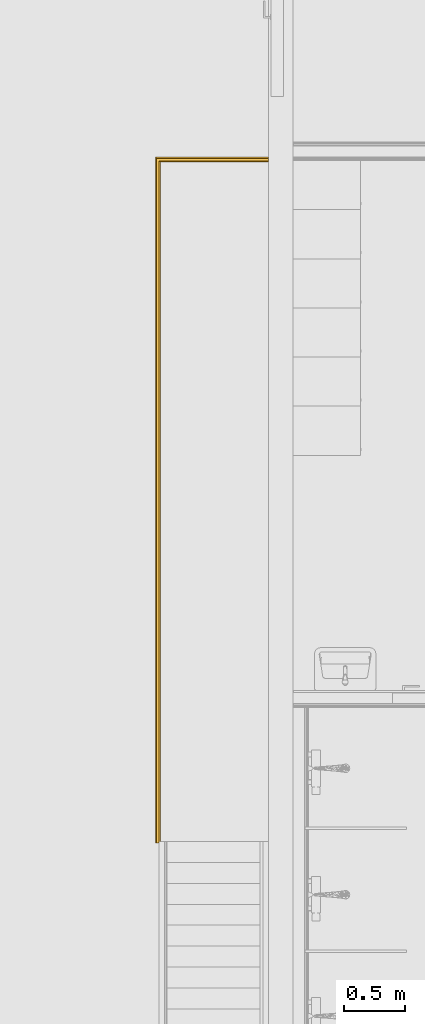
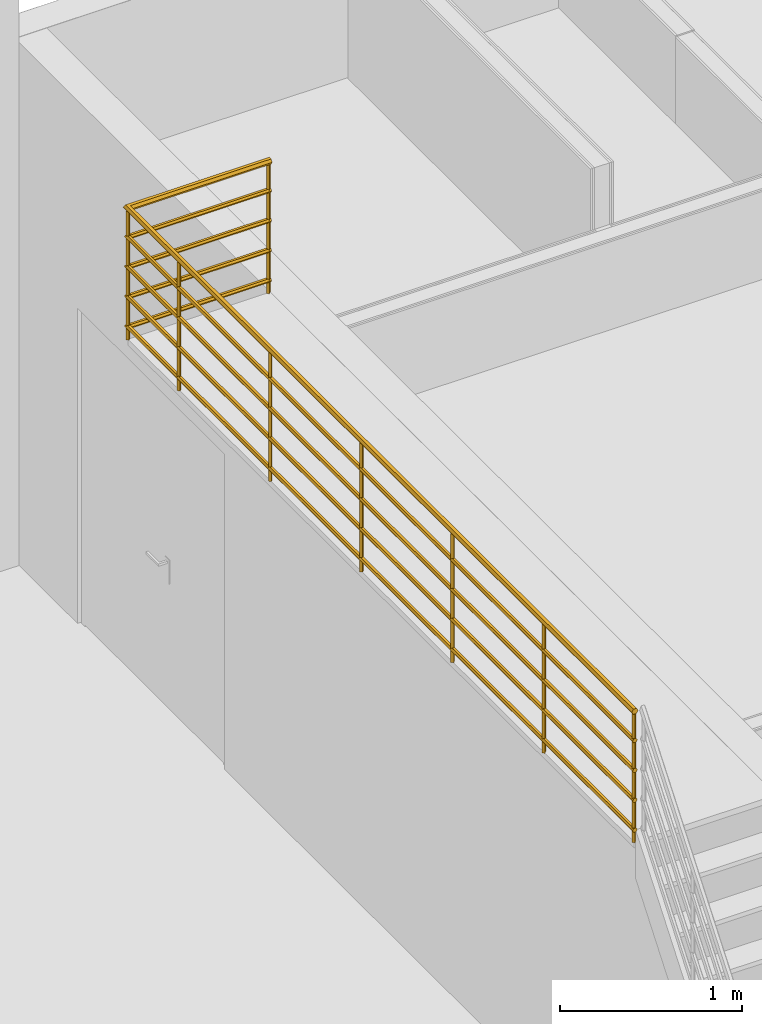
# One storey, part 27 of 67: 1 railing.
"""IFC4 building model written with IfcOpenShell, lengths in millimetres."""

from ifc_helpers import new_model, entity, si_unit, converted_unit, direction, frame, origin, place, context, subcontext, project, spatial, polygons, material, type_object, element, save


model = new_model("IFC4")

# Units and contexts
model_context = context("Model", 3, precision=0.01, world=origin(), true_north=direction((0.0, 1.0)))
body_context = subcontext(model_context, "Body", "Model", "MODEL_VIEW")
ifc_project = project(units=[si_unit("LENGTHUNIT", "METRE", prefix="MILLI"), si_unit("AREAUNIT", "SQUARE_METRE"), si_unit("VOLUMEUNIT", "CUBIC_METRE"), converted_unit("PLANEANGLEUNIT", "DEGREE", entity("IfcPlaneAngleMeasure", 0.017453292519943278), si_unit("PLANEANGLEUNIT", "RADIAN"), dimensions=[0, 0, 0, 0, 0, 0, 0])], contexts=[model_context])

# Site, building, storey
site_placement = place(None, origin())
site = spatial("IfcSite", under=ifc_project, at=site_placement, Name="Tomtens navn", CompositionType="ELEMENT")
building_placement = place(site_placement, origin())
building = spatial("IfcBuilding", under=site, at=building_placement, Name="Byggets navn", CompositionType="ELEMENT")
storey_placement = place(building_placement, origin())
storey = spatial("IfcBuildingStorey", under=building, at=storey_placement, Name="Level 01", CompositionType="ELEMENT", Elevation=2.1993652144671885e-25)

# Railing
ifc_material = material(Name="<Unnamed>")
railing_type = type_object("IfcRailingType", Name="Railing:Rekkverk 900mm rør - Top Rail", PredefinedType="NOTDEFINED")
railing_placement = place(storey_placement, frame((57500.52180408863, 14499.878956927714, 3500.0)))
element("IfcRailing", 1, at=railing_placement, inside=storey, type_object=railing_type, material=ifc_material, Name="Railing:Rekkverk 900mm rør - Top Rail", PredefinedType="NOTDEFINED", context=body_context, shape_type="Tessellation", body=[
    polygons([(9.095272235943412, 5001.5875000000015, 859.9999999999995), (21.595272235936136, 5014.0875000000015, 859.9999999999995), (34.095272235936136, 5001.5875000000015, 859.9999999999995), (34.095272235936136, 5001.5875000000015, 0.0), (21.595272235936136, 5014.0875000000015, 0.0), (9.095272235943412, 5001.5875000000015, 0.0), (21.595272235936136, 4989.0875000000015, 0.0), (21.595272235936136, 4989.0875000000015, 859.9999999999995)], [[[1, 2, 5, 6]], [[3, 4, 5, 2]], [[4, 3, 8, 7]], [[1, 6, 7, 8]], [[8, 3, 2, 1]], [[4, 7, 6, 5]]], closed=True),
    polygons([(9.095272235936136, 4001.5875000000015, 859.9999999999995), (21.59527223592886, 4014.0875000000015, 859.9999999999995), (34.09527223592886, 4001.5875000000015, 859.9999999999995), (34.09527223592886, 4001.5875000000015, 0.0), (21.59527223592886, 4014.0875000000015, 0.0), (9.095272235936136, 4001.5875000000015, 0.0), (21.59527223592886, 3989.0875000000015, 0.0), (21.59527223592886, 3989.0875000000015, 859.9999999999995)], [[[1, 2, 5, 6]], [[3, 4, 5, 2]], [[4, 3, 8, 7]], [[1, 6, 7, 8]], [[8, 3, 2, 1]], [[4, 7, 6, 5]]], closed=True),
    polygons([(9.095272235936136, 3001.5875000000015, 859.9999999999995), (21.59527223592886, 3014.0875000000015, 859.9999999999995), (34.09527223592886, 3001.5875000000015, 859.9999999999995), (34.09527223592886, 3001.5875000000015, 0.0), (21.59527223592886, 3014.0875000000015, 0.0), (9.095272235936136, 3001.5875000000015, 0.0), (21.59527223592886, 2989.0875000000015, 0.0), (21.59527223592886, 2989.0875000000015, 859.9999999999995)], [[[1, 2, 5, 6]], [[3, 4, 5, 2]], [[4, 3, 8, 7]], [[1, 6, 7, 8]], [[8, 3, 2, 1]], [[4, 7, 6, 5]]], closed=True),
    polygons([(9.095272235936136, 2001.5875000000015, 859.9999999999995), (21.59527223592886, 2014.0875000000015, 859.9999999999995), (34.09527223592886, 2001.5875000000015, 859.9999999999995), (34.09527223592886, 2001.5875000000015, 0.0), (21.59527223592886, 2014.0875000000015, 0.0), (9.095272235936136, 2001.5875000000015, 0.0), (21.59527223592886, 1989.0875000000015, 0.0), (21.59527223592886, 1989.0875000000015, 859.9999999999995)], [[[1, 2, 5, 6]], [[3, 4, 5, 2]], [[4, 3, 8, 7]], [[1, 6, 7, 8]], [[8, 3, 2, 1]], [[4, 7, 6, 5]]], closed=True),
    polygons([(9.095272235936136, 1001.5875000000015, 859.9999999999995), (21.59527223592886, 1014.0874999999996, 859.9999999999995), (34.09527223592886, 1001.5875000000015, 859.9999999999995), (34.09527223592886, 1001.5875000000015, 0.0), (21.59527223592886, 1014.0874999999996, 0.0), (9.095272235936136, 1001.5875000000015, 0.0), (21.59527223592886, 989.0875000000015, 0.0), (21.59527223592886, 989.0875000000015, 859.9999999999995)], [[[1, 2, 5, 6]], [[3, 4, 5, 2]], [[4, 3, 8, 7]], [[1, 6, 7, 8]], [[8, 3, 2, 1]], [[4, 7, 6, 5]]], closed=True),
    polygons([(9.095272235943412, 5561.587500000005, 859.9999999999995), (21.595272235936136, 5574.087500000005, 859.9999999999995), (34.095272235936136, 5561.587500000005, 859.9999999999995), (34.095272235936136, 5561.587500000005, 0.0), (21.595272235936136, 5574.087500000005, 0.0), (9.095272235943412, 5561.587500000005, 0.0), (21.595272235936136, 5549.0875000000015, 0.0), (21.595272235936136, 5549.0875000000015, 859.9999999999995)], [[[1, 2, 5, 6]], [[3, 4, 5, 2]], [[4, 3, 8, 7]], [[1, 6, 7, 8]], [[8, 3, 2, 1]], [[4, 7, 6, 5]]], closed=True),
    polygons([(909.8317240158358, 5574.0875000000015, 859.9999999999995), (922.3317240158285, 5561.587499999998, 859.9999999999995), (909.8317240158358, 5549.087499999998, 859.9999999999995), (909.8317240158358, 5549.087499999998, 0.0), (922.3317240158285, 5561.587499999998, 0.0), (909.8317240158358, 5574.0875000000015, 0.0), (897.3317240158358, 5561.587499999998, 0.0), (897.3317240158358, 5561.587499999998, 859.9999999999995)], [[[1, 2, 5, 6]], [[3, 4, 5, 2]], [[4, 3, 8, 7]], [[1, 6, 7, 8]], [[8, 3, 2, 1]], [[4, 7, 6, 5]]], closed=True),
    polygons([(9.095272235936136, 14.087499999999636, 859.9999999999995), (21.59527223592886, 26.587499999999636, 859.9999999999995), (34.09527223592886, 14.087499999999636, 859.9999999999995), (34.09527223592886, 14.087499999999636, 0.0), (21.59527223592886, 26.587499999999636, 0.0), (9.095272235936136, 14.087499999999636, 0.0), (21.59527223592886, 1.5875000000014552, 0.0), (21.59527223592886, 1.5875000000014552, 859.9999999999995)], [[[1, 2, 5, 6]], [[3, 4, 5, 2]], [[4, 3, 8, 7]], [[1, 6, 7, 8]], [[8, 3, 2, 1]], [[4, 7, 6, 5]]], closed=True),
    polygons([(36.59527223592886, 1.5875000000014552, 684.9999999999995), (29.09527223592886, 1.5875000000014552, 697.9903810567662), (14.09527223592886, 1.5875000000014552, 697.9903810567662), (6.595272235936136, 1.5875000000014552, 684.9999999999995), (14.09527223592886, 1.5875000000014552, 672.0096189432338), (29.09527223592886, 1.5875000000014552, 672.0096189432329), (6.595272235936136, 5576.587500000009, 684.9999999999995), (14.09527223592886, 5569.087500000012, 672.0096189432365), (29.095272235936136, 5554.087500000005, 672.0096189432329), (36.595272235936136, 5546.587500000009, 684.9999999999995), (10.727691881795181, 5572.455080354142, 677.8424392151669), (10.34527223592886, 1.5875000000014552, 678.5048094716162), (8.661482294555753, 1.5875000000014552, 681.4212191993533), (21.59527223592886, 1.5875000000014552, 672.0096189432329), (32.84527223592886, 5550.337500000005, 678.5048094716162), (32.84527223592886, 1.5875000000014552, 678.5048094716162), (30.970272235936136, 1.5875000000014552, 675.2572142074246), (17.845272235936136, 1.5875000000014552, 672.0096189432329), (34.52906217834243, 1.5875000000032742, 681.4212192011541), (34.720272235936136, 5548.462500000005, 681.7524047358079), (12.220272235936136, 1.5875000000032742, 675.2572142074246), (12.411482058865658, 5570.771290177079, 674.9260290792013), (8.661482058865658, 5574.521290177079, 681.4212196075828), (25.345272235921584, 1.5874999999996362, 672.009618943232), (30.970272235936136, 5552.212500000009, 675.2572142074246), (29.095272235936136, 5554.087500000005, 697.9903810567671), (14.09527223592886, 5569.087500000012, 697.9903810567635), (32.462852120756, 1.5875000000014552, 692.1575615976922), (32.84527223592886, 5550.337500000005, 691.4951905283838), (30.970272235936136, 5552.212500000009, 694.7427857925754), (21.59527223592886, 1.5875000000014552, 697.9903810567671), (10.34527223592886, 1.5875000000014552, 691.4951905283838), (10.34527223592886, 5572.837500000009, 691.495190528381), (8.661482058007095, 5574.521290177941, 688.5787803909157), (34.52906241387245, 5548.653709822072, 688.5787803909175), (34.52906217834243, 1.5875000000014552, 688.5787807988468), (25.345272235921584, 1.5875000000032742, 697.9903810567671), (12.220272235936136, 1.5875000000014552, 694.7427857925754), (12.220272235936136, 5570.962500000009, 694.7427857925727), (30.779062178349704, 1.5875000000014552, 695.0739713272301), (17.84527223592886, 1.5874999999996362, 697.9903810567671), (8.47027223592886, 1.5875000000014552, 688.2475952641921), (922.3317240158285, 5546.5875000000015, 684.9999999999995), (922.3317240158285, 5554.087500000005, 672.0096189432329), (922.3317240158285, 5569.0875000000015, 672.0096189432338), (922.3317240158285, 5576.587500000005, 684.9999999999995), (922.3317240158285, 5569.0875000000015, 697.9903810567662), (922.3317240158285, 5554.087500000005, 697.9903810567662), (9.548799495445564, 5573.633972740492, 679.8843407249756), (922.3317240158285, 5572.8375000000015, 678.5048094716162), (922.3317240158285, 5570.962500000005, 675.2572142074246), (922.3317240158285, 5561.587500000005, 672.0096189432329), (922.3317240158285, 5557.837500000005, 672.0096189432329), (922.3317240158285, 5550.337500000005, 678.5048094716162), (922.3317240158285, 5548.064269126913, 682.4421608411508), (11.82203586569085, 5571.360736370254, 675.9469798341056), (922.3317240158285, 5552.212500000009, 675.2572142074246), (922.3317240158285, 5565.3375000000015, 672.0096189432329), (8.07203586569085, 5575.110736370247, 682.442170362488), (922.3317240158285, 5574.7125000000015, 681.7524047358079), (922.3317240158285, 5549.541038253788, 690.1156783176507), (34.720272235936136, 5548.462500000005, 688.2475952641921), (922.3317240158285, 5561.587500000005, 697.9903810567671), (922.3317240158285, 5565.3375000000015, 697.9903810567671), (922.3317240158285, 5572.8375000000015, 691.4951905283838), (922.3317240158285, 5551.814269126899, 694.0530296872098), (922.3317240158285, 5557.837500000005, 697.9903810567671), (8.07203585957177, 5575.110736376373, 687.5578296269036), (922.3317240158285, 5574.7125000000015, 688.2475952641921), (922.3317240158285, 5548.064269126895, 687.5578391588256), (922.3317240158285, 5570.962500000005, 694.7427857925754)], [[[17, 16, 19, 1, 36, 28, 40, 2, 37, 31, 41, 3, 38, 32, 42, 4, 13, 12, 21, 5, 18, 14, 24, 6]], [[5, 21, 12, 13, 4, 7, 59, 23, 49, 11, 56, 22, 8]], [[10, 1, 19, 16, 17, 6, 9, 25, 15, 20]], [[9, 6, 24, 14, 18, 5, 8, 45, 58, 52, 53, 44]], [[41, 31, 37, 2, 26, 48, 67, 63, 64, 47, 27, 3]], [[29, 30, 26, 2, 40, 28, 36, 1, 10, 62, 35]], [[42, 32, 38, 3, 27, 39, 33, 34, 68, 7, 4]], [[55, 54, 57, 44, 53, 52, 58, 45, 51, 50, 60, 46, 69, 65, 71, 47, 64, 63, 67, 48, 66, 61, 70, 43]], [[8, 22, 56, 11, 49, 23, 59, 7, 46, 60, 50, 51, 45]], [[55, 43, 10, 20, 15, 25, 9, 44, 57, 54]], [[10, 43, 70, 61, 66, 48, 26, 30, 29, 35, 62]], [[46, 7, 68, 34, 33, 39, 27, 47, 71, 65, 69]]], closed=True),
    polygons([(36.59527223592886, 1.5875000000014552, 485.0), (29.09527223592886, 1.5875000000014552, 497.9903810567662), (14.09527223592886, 1.5875000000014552, 497.9903810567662), (6.595272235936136, 1.5875000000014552, 485.0), (14.09527223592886, 1.5875000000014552, 472.0096189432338), (29.09527223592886, 1.5875000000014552, 472.0096189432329), (6.595272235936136, 5576.587500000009, 485.0), (14.09527223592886, 5569.087500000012, 472.009618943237), (29.095272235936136, 5554.087500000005, 472.0096189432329), (36.595272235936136, 5546.587500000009, 485.0), (10.727691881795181, 5572.455080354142, 477.84243921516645), (10.34527223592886, 1.5875000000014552, 478.5048094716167), (8.661482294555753, 1.5875000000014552, 481.4212191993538), (21.59527223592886, 1.5875000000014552, 472.00961894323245), (32.84527223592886, 5550.337500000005, 478.5048094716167), (32.84527223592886, 1.5875000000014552, 478.5048094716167), (30.970272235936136, 1.5875000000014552, 475.2572142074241), (17.845272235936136, 1.5875000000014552, 472.00961894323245), (34.52906217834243, 1.5875000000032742, 481.4212192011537), (34.720272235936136, 5548.462500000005, 481.75240473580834), (12.220272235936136, 1.5875000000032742, 475.25721420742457), (12.411482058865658, 5570.771290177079, 474.9260290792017), (8.661482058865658, 5574.521290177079, 481.4212196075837), (25.345272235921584, 1.5874999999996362, 472.009618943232), (30.970272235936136, 5552.212500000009, 475.25721420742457), (29.095272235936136, 5554.087500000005, 497.9903810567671), (14.09527223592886, 5569.087500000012, 497.990381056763), (32.462852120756, 1.5875000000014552, 492.15756159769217), (32.84527223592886, 5550.337500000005, 491.4951905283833), (30.970272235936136, 5552.212500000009, 494.742785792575), (21.59527223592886, 1.5875000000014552, 497.99038105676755), (10.34527223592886, 1.5875000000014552, 491.4951905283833), (10.34527223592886, 5572.837500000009, 491.49519052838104), (8.661482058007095, 5574.521290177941, 488.5787803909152), (34.52906241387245, 5548.653709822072, 488.5787803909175), (34.52906217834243, 1.5875000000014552, 488.57878079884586), (25.345272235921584, 1.5875000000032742, 497.99038105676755), (12.220272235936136, 1.5875000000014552, 494.742785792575), (12.220272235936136, 5570.962500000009, 494.74278579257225), (30.779062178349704, 1.5875000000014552, 495.0739713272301), (17.84527223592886, 1.5874999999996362, 497.99038105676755), (8.47027223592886, 1.5875000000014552, 488.2475952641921), (922.3317240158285, 5546.5875000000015, 485.0), (922.3317240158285, 5554.087500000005, 472.0096189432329), (922.3317240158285, 5569.0875000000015, 472.0096189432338), (922.3317240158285, 5576.587500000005, 485.0), (922.3317240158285, 5569.0875000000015, 497.9903810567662), (922.3317240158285, 5554.087500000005, 497.9903810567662), (9.548799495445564, 5573.633972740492, 479.8843407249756), (922.3317240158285, 5572.8375000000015, 478.5048094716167), (922.3317240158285, 5570.962500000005, 475.25721420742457), (922.3317240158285, 5561.587500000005, 472.00961894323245), (922.3317240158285, 5557.837500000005, 472.00961894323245), (922.3317240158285, 5550.337500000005, 478.5048094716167), (922.3317240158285, 5548.064269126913, 482.4421608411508), (11.82203586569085, 5571.360736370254, 475.9469798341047), (922.3317240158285, 5552.212500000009, 475.25721420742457), (922.3317240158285, 5565.3375000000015, 472.00961894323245), (8.07203586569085, 5575.110736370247, 482.442170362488), (922.3317240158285, 5574.7125000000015, 481.75240473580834), (922.3317240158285, 5549.541038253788, 490.11567831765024), (34.720272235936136, 5548.462500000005, 488.24759526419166), (922.3317240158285, 5561.587500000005, 497.99038105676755), (922.3317240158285, 5565.3375000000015, 497.99038105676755), (922.3317240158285, 5572.8375000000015, 491.4951905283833), (922.3317240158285, 5551.814269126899, 494.0530296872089), (922.3317240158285, 5557.837500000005, 497.99038105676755), (8.07203585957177, 5575.110736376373, 487.5578296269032), (922.3317240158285, 5574.7125000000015, 488.2475952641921), (922.3317240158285, 5548.064269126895, 487.5578391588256), (922.3317240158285, 5570.962500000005, 494.742785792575)], [[[17, 16, 19, 1, 36, 28, 40, 2, 37, 31, 41, 3, 38, 32, 42, 4, 13, 12, 21, 5, 18, 14, 24, 6]], [[5, 21, 12, 13, 4, 7, 59, 23, 49, 11, 56, 22, 8]], [[10, 1, 19, 16, 17, 6, 9, 25, 15, 20]], [[9, 6, 24, 14, 18, 5, 8, 45, 58, 52, 53, 44]], [[41, 31, 37, 2, 26, 48, 67, 63, 64, 47, 27, 3]], [[29, 30, 26, 2, 40, 28, 36, 1, 10, 62, 35]], [[42, 32, 38, 3, 27, 39, 33, 34, 68, 7, 4]], [[55, 54, 57, 44, 53, 52, 58, 45, 51, 50, 60, 46, 69, 65, 71, 47, 64, 63, 67, 48, 66, 61, 70, 43]], [[8, 22, 56, 11, 49, 23, 59, 7, 46, 60, 50, 51, 45]], [[55, 43, 10, 20, 15, 25, 9, 44, 57, 54]], [[10, 43, 70, 61, 66, 48, 26, 30, 29, 35, 62]], [[46, 7, 68, 34, 33, 39, 27, 47, 71, 65, 69]]], closed=True),
    polygons([(36.59527223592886, 1.5875000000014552, 285.0), (29.09527223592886, 1.5875000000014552, 297.9903810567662), (14.09527223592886, 1.5875000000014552, 297.9903810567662), (6.595272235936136, 1.5875000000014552, 285.0), (14.09527223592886, 1.5875000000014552, 272.00961894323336), (29.09527223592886, 1.5875000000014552, 272.0096189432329), (6.595272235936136, 5576.587500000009, 285.0), (14.09527223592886, 5569.087500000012, 272.009618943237), (29.095272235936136, 5554.087500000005, 272.0096189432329), (36.595272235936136, 5546.587500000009, 285.0), (10.727691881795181, 5572.455080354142, 277.84243921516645), (10.34527223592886, 1.5875000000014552, 278.5048094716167), (8.661482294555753, 1.5875000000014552, 281.42121919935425), (21.59527223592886, 1.5875000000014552, 272.00961894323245), (32.84527223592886, 5550.337500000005, 278.5048094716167), (32.84527223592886, 1.5875000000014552, 278.5048094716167), (30.970272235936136, 1.5875000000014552, 275.2572142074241), (17.845272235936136, 1.5875000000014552, 272.00961894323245), (34.52906217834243, 1.5875000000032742, 281.4212192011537), (34.720272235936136, 5548.462500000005, 281.75240473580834), (12.220272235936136, 1.5875000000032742, 275.25721420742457), (12.411482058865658, 5570.771290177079, 274.9260290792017), (8.661482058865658, 5574.521290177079, 281.4212196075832), (25.345272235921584, 1.5874999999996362, 272.009618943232), (30.970272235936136, 5552.212500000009, 275.25721420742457), (29.095272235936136, 5554.087500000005, 297.9903810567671), (14.09527223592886, 5569.087500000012, 297.990381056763), (32.462852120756, 1.5875000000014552, 292.15756159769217), (32.84527223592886, 5550.337500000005, 291.4951905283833), (30.970272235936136, 5552.212500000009, 294.742785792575), (21.59527223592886, 1.5875000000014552, 297.99038105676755), (10.34527223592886, 1.5875000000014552, 291.4951905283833), (10.34527223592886, 5572.837500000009, 291.49519052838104), (8.661482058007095, 5574.521290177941, 288.5787803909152), (34.52906241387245, 5548.653709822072, 288.5787803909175), (34.52906217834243, 1.5875000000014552, 288.57878079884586), (25.345272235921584, 1.5875000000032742, 297.99038105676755), (12.220272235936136, 1.5875000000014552, 294.742785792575), (12.220272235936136, 5570.962500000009, 294.74278579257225), (30.779062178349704, 1.5875000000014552, 295.0739713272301), (17.84527223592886, 1.5874999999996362, 297.99038105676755), (8.47027223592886, 1.5875000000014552, 288.24759526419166), (922.3317240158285, 5546.5875000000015, 285.0), (922.3317240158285, 5554.087500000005, 272.0096189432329), (922.3317240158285, 5569.0875000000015, 272.00961894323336), (922.3317240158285, 5576.587500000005, 285.0), (922.3317240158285, 5569.0875000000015, 297.9903810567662), (922.3317240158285, 5554.087500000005, 297.9903810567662), (9.548799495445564, 5573.633972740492, 279.8843407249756), (922.3317240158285, 5572.8375000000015, 278.5048094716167), (922.3317240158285, 5570.962500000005, 275.25721420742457), (922.3317240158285, 5561.587500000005, 272.00961894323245), (922.3317240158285, 5557.837500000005, 272.00961894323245), (922.3317240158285, 5550.337500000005, 278.5048094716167), (922.3317240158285, 5548.064269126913, 282.44216084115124), (11.82203586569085, 5571.360736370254, 275.9469798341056), (922.3317240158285, 5552.212500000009, 275.25721420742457), (922.3317240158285, 5565.3375000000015, 272.00961894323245), (8.07203586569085, 5575.110736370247, 282.442170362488), (922.3317240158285, 5574.7125000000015, 281.7524047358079), (922.3317240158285, 5549.541038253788, 290.11567831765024), (34.720272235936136, 5548.462500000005, 288.24759526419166), (922.3317240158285, 5561.587500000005, 297.99038105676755), (922.3317240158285, 5565.3375000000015, 297.99038105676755), (922.3317240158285, 5572.8375000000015, 291.4951905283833), (922.3317240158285, 5551.814269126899, 294.0530296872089), (922.3317240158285, 5557.837500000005, 297.99038105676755), (8.07203585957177, 5575.110736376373, 287.5578296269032), (922.3317240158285, 5574.7125000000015, 288.24759526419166), (922.3317240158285, 5548.064269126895, 287.5578391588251), (922.3317240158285, 5570.962500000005, 294.742785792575)], [[[17, 16, 19, 1, 36, 28, 40, 2, 37, 31, 41, 3, 38, 32, 42, 4, 13, 12, 21, 5, 18, 14, 24, 6]], [[5, 21, 12, 13, 4, 7, 59, 23, 49, 11, 56, 22, 8]], [[10, 1, 19, 16, 17, 6, 9, 25, 15, 20]], [[9, 6, 24, 14, 18, 5, 8, 45, 58, 52, 53, 44]], [[41, 31, 37, 2, 26, 48, 67, 63, 64, 47, 27, 3]], [[29, 30, 26, 2, 40, 28, 36, 1, 10, 62, 35]], [[42, 32, 38, 3, 27, 39, 33, 34, 68, 7, 4]], [[55, 54, 57, 44, 53, 52, 58, 45, 51, 50, 60, 46, 69, 65, 71, 47, 64, 63, 67, 48, 66, 61, 70, 43]], [[8, 22, 56, 11, 49, 23, 59, 7, 46, 60, 50, 51, 45]], [[55, 43, 10, 20, 15, 25, 9, 44, 57, 54]], [[10, 43, 70, 61, 66, 48, 26, 30, 29, 35, 62]], [[46, 7, 68, 34, 33, 39, 27, 47, 71, 65, 69]]], closed=True),
    polygons([(36.59527223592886, 1.5875000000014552, 85.0), (29.09527223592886, 1.5875000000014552, 97.99038105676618), (14.09527223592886, 1.5875000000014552, 97.99038105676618), (6.595272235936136, 1.5875000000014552, 85.0), (14.09527223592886, 1.5875000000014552, 72.00961894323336), (29.09527223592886, 1.5875000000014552, 72.00961894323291), (6.595272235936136, 5576.587500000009, 85.0), (14.09527223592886, 5569.087500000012, 72.009618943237), (29.095272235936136, 5554.087500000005, 72.00961894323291), (36.595272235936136, 5546.587500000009, 85.0), (10.727691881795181, 5572.455080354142, 77.8424392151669), (10.34527223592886, 1.5875000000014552, 78.50480947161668), (8.661482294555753, 1.5875000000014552, 81.4212191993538), (21.59527223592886, 1.5875000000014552, 72.00961894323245), (32.84527223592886, 5550.337500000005, 78.50480947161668), (32.84527223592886, 1.5875000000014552, 78.50480947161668), (30.970272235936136, 1.5875000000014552, 75.25721420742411), (17.845272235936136, 1.5875000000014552, 72.00961894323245), (34.52906217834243, 1.5875000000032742, 81.42121920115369), (34.720272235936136, 5548.462500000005, 81.75240473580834), (12.220272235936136, 1.5875000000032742, 75.25721420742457), (12.411482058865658, 5570.771290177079, 74.92602907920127), (8.661482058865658, 5574.521290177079, 81.42121960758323), (25.345272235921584, 1.5874999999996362, 72.009618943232), (30.970272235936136, 5552.212500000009, 75.25721420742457), (29.095272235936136, 5554.087500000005, 97.99038105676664), (14.09527223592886, 5569.087500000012, 97.990381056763), (32.462852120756, 1.5875000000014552, 92.15756159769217), (32.84527223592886, 5550.337500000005, 91.49519052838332), (30.970272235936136, 5552.212500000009, 94.74278579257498), (21.59527223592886, 1.5875000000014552, 97.99038105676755), (10.34527223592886, 1.5875000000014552, 91.49519052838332), (10.34527223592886, 5572.837500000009, 91.49519052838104), (8.661482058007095, 5574.521290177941, 88.5787803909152), (34.52906241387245, 5548.653709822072, 88.57878039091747), (34.52906217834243, 1.5875000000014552, 88.57878079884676), (25.345272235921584, 1.5875000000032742, 97.99038105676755), (12.220272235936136, 1.5875000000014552, 94.74278579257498), (12.220272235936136, 5570.962500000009, 94.74278579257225), (30.779062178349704, 1.5875000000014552, 95.07397132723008), (17.84527223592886, 1.5874999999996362, 97.99038105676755), (8.47027223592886, 1.5875000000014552, 88.24759526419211), (922.3317240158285, 5546.5875000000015, 85.0), (922.3317240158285, 5554.087500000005, 72.00961894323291), (922.3317240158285, 5569.0875000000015, 72.00961894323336), (922.3317240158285, 5576.587500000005, 85.0), (922.3317240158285, 5569.0875000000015, 97.99038105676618), (922.3317240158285, 5554.087500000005, 97.99038105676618), (9.548799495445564, 5573.633972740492, 79.88434072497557), (922.3317240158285, 5572.8375000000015, 78.50480947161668), (922.3317240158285, 5570.962500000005, 75.25721420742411), (922.3317240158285, 5561.587500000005, 72.00961894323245), (922.3317240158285, 5557.837500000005, 72.00961894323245), (922.3317240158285, 5550.337500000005, 78.50480947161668), (922.3317240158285, 5548.064269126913, 82.44216084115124), (11.82203586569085, 5571.360736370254, 75.9469798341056), (922.3317240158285, 5552.212500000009, 75.25721420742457), (922.3317240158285, 5565.3375000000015, 72.00961894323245), (8.07203586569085, 5575.110736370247, 82.44217036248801), (922.3317240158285, 5574.7125000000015, 81.75240473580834), (922.3317240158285, 5549.541038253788, 90.11567831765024), (34.720272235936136, 5548.462500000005, 88.24759526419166), (922.3317240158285, 5561.587500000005, 97.99038105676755), (922.3317240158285, 5565.3375000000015, 97.99038105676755), (922.3317240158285, 5572.8375000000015, 91.49519052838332), (922.3317240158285, 5551.814269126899, 94.05302968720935), (922.3317240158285, 5557.837500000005, 97.99038105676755), (8.07203585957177, 5575.110736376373, 87.55782962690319), (922.3317240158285, 5574.7125000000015, 88.24759526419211), (922.3317240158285, 5548.064269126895, 87.55783915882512), (922.3317240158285, 5570.962500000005, 94.74278579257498)], [[[17, 16, 19, 1, 36, 28, 40, 2, 37, 31, 41, 3, 38, 32, 42, 4, 13, 12, 21, 5, 18, 14, 24, 6]], [[5, 21, 12, 13, 4, 7, 59, 23, 49, 11, 56, 22, 8]], [[10, 1, 19, 16, 17, 6, 9, 25, 15, 20]], [[9, 6, 24, 14, 18, 5, 8, 45, 58, 52, 53, 44]], [[41, 31, 37, 2, 26, 48, 67, 63, 64, 47, 27, 3]], [[29, 30, 26, 2, 40, 28, 36, 1, 10, 62, 35]], [[42, 32, 38, 3, 27, 39, 33, 34, 68, 7, 4]], [[55, 54, 57, 44, 53, 52, 58, 45, 51, 50, 60, 46, 69, 65, 71, 47, 64, 63, 67, 48, 66, 61, 70, 43]], [[8, 22, 56, 11, 49, 23, 59, 7, 46, 60, 50, 51, 45]], [[55, 43, 10, 20, 15, 25, 9, 44, 57, 54]], [[10, 43, 70, 61, 66, 48, 26, 30, 29, 35, 62]], [[46, 7, 68, 34, 33, 39, 27, 47, 71, 65, 69]]], closed=True),
    polygons([(41.595272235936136, 1.5875000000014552, 880.0000000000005), (31.59527223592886, 1.5875000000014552, 897.3205080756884), (11.59527223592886, 1.5875000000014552, 897.3205080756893), (1.59527223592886, 1.5875000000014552, 880.0000000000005), (11.59527223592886, 1.5875000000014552, 862.6794919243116), (31.59527223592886, 1.5875000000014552, 862.6794919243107), (41.595272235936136, 5541.587500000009, 880.0000000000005), (31.595272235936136, 5551.587500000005, 897.3205080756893), (11.59527223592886, 5571.587500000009, 897.3205080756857), (1.595272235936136, 5581.587500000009, 880.0000000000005), (35.625235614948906, 1.5874999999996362, 890.3404067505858), (36.595272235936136, 5546.587500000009, 888.6602540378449), (34.095272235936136, 5549.087500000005, 892.9903810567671), (21.59527223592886, 1.5875000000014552, 897.3205080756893), (7.565307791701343, 5575.617464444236, 890.3404049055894), (6.595272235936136, 1.5875000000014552, 888.6602540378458), (9.095272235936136, 1.5875000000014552, 892.9903810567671), (38.610254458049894, 5544.572517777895, 885.1702024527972), (38.610253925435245, 1.5874999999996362, 885.1702033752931), (26.59527223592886, 1.5875000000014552, 897.3205080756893), (4.580290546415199, 1.5875000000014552, 885.1702033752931), (4.580290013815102, 5578.602482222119, 885.1702024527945), (33.610253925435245, 1.5875000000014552, 893.8304574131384), (16.59527223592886, 1.5875000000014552, 897.3205080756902), (9.580290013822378, 5573.6024822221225, 893.8304564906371), (11.59527223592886, 5571.587500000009, 862.6794919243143), (31.595272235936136, 5551.587500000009, 862.6794919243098), (6.595272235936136, 1.5875000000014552, 871.3397459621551), (6.595272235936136, 5576.587500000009, 871.3397459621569), (9.095272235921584, 5574.087500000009, 867.0096189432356), (21.59527223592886, 1.5874999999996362, 862.6794919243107), (36.595272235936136, 5546.5875000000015, 871.3397459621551), (36.59527223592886, 1.5875000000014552, 871.3397459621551), (34.09527223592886, 1.5875000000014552, 867.0096189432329), (16.59527223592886, 1.5875000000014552, 862.6794919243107), (38.61025392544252, 1.5875000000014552, 874.8297966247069), (39.095272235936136, 5544.087500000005, 875.6698729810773), (4.580290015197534, 5578.602482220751, 874.82979754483), (4.09527223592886, 1.5875000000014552, 875.6698729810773), (9.095272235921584, 1.5875000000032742, 867.0096189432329), (26.59527223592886, 1.5875000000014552, 862.6794919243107), (34.095272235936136, 5549.087500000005, 867.009618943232), (922.3317240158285, 5541.587500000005, 880.0000000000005), (922.3317240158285, 5551.587500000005, 862.6794919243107), (922.3317240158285, 5571.587500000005, 862.6794919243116), (922.3317240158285, 5581.587500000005, 880.0000000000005), (922.3317240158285, 5571.587500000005, 897.3205080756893), (922.3317240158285, 5551.5875000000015, 897.3205080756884), (922.3317240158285, 5546.110075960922, 887.8333313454), (39.095272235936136, 5544.087500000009, 884.3301270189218), (922.3317240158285, 5561.587500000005, 897.3205080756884), (922.3317240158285, 5566.587500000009, 897.3205080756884), (922.3317240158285, 5576.587500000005, 888.660254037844), (6.595272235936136, 5576.587500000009, 888.660254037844), (9.095272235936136, 5574.087500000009, 892.9903810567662), (922.3317240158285, 5548.848787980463, 892.5769197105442), (922.3317240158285, 5556.5875000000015, 897.3205080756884), (3.8565453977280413, 5579.326226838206, 883.9166400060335), (922.3317240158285, 5579.087500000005, 884.3301270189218), (922.3317240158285, 5543.84878798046, 883.9166656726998), (922.3317240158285, 5574.087500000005, 892.9903810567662), (922.3317240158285, 5546.5875000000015, 871.3397459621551), (922.3317240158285, 5543.848787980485, 876.0833343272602), (922.3317240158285, 5576.587500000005, 871.339745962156), (3.8565454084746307, 5579.32622682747, 876.083359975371), (922.3317240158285, 5561.587500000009, 862.6794919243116), (922.3317240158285, 5549.0875000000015, 867.0096189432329), (922.3317240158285, 5556.587500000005, 862.6794919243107), (922.3317240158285, 5574.087500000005, 867.0096189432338), (922.3317240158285, 5579.087500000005, 875.6698729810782), (922.3317240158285, 5566.587500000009, 862.6794919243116)], [[[2, 20, 14, 24, 3, 17, 16, 21, 4, 39, 28, 40, 5, 35, 31, 41, 6, 34, 33, 36, 1, 19, 11, 23]], [[24, 14, 20, 2, 8, 48, 57, 51, 52, 47, 9, 3]], [[12, 13, 8, 2, 23, 11, 19, 1, 7, 50, 18]], [[3, 9, 25, 55, 15, 54, 22, 58, 10, 4, 21, 16, 17]], [[27, 6, 41, 31, 35, 5, 26, 45, 71, 66, 68, 44]], [[7, 1, 36, 33, 34, 6, 27, 42, 32, 37]], [[26, 5, 40, 28, 39, 4, 10, 65, 38, 29, 30]], [[46, 59, 53, 61, 47, 52, 51, 57, 48, 56, 49, 60, 43, 63, 62, 67, 44, 68, 66, 71, 45, 69, 64, 70]], [[49, 56, 48, 8, 13, 12, 18, 50, 7, 43, 60]], [[46, 10, 58, 22, 54, 15, 55, 25, 9, 47, 61, 53, 59]], [[64, 69, 45, 26, 30, 29, 38, 65, 10, 46, 70]], [[43, 7, 37, 32, 42, 27, 44, 67, 62, 63]]], closed=True),
])

save(model, "model.ifc")
